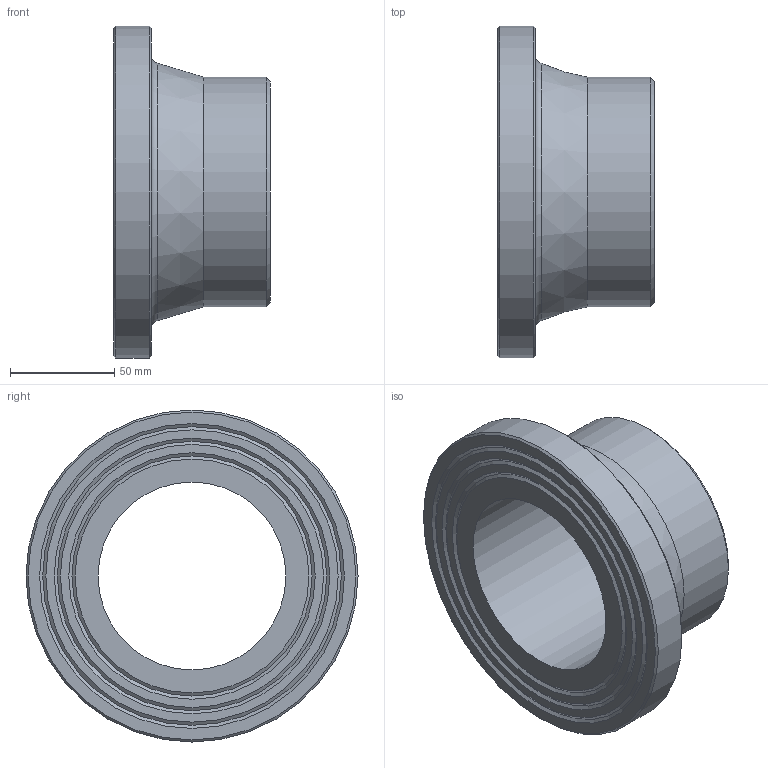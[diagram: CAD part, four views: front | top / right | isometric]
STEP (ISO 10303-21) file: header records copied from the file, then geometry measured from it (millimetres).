
FILE_DESCRIPTION(/* description */ ('Unknown'),/* implementation_level */ '2;1');
FILE_NAME(/* name */ 'CCP110C',/* time_stamp */ '2022-04-04T14:44:53+02:00',/* author */ ('Unknown'),/* organization */ ('Unknown'),/* preprocessor_version */ 'ST-DEVELOPER v18.1',/* originating_system */ 'Solid Edge',/* authorisation */ 'Unknown');
FILE_SCHEMA (('AUTOMOTIVE_DESIGN {1 0 10303 214 3 1 1}'));
Length unit declared in the file: millimetre
Products named in the file (1): CCP110C
Bounding box: 75 x 159 x 159 mm (x, y, z)
Volume: 453306 mm3; surface area: 74663.6 mm2
Topology: 1 solids, 1 shells, 20 faces, 35 edges, 21 vertices
Faces by surface type: cone 10, plane 6, cylinder 3, torus 1
Full cylindrical faces by diameter (mm): 90 x1, 110 x1, 159 x1
Entity records: 438 total; most frequent: DIRECTION 82, CARTESIAN_POINT 61, AXIS2_PLACEMENT_3D 41, ORIENTED_EDGE 40, EDGE_LOOP 40, FACE_BOUND 40, EDGE_CURVE 20, VERTEX_POINT 20
